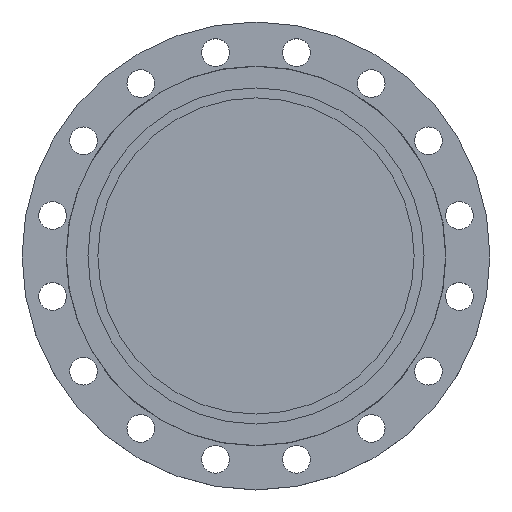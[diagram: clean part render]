
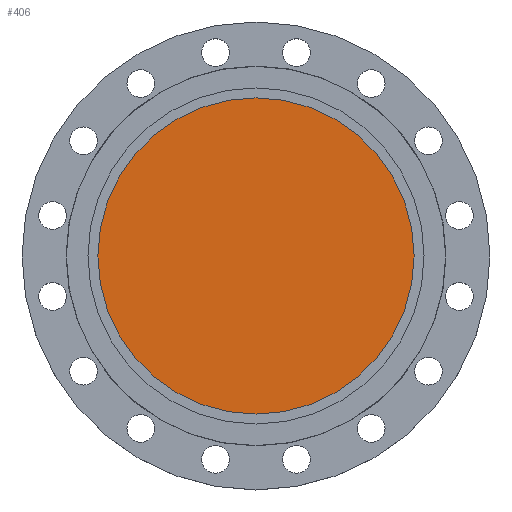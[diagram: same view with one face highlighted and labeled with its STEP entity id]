
A CAD part, top view. The second image highlights one B-rep face of the part: STEP entity #406.
In plain terms, the highlighted planar face has unit normal (0, 0, 1).
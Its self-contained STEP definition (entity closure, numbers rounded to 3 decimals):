
#20 = DIRECTION ( 'NONE',  ( 0., 0., -1. ) ) ;
#261 = AXIS2_PLACEMENT_3D ( 'NONE', #1387, #20, #798 ) ;
#262 = CARTESIAN_POINT ( 'NONE',  ( 223., 0., 0. ) ) ;
#313 = DIRECTION ( 'NONE',  ( 0., 0., -1. ) ) ;
#366 = DIRECTION ( 'NONE',  ( 1., 0., 0. ) ) ;
#368 = DIRECTION ( 'NONE',  ( 0., 0., 1. ) ) ;
#369 = CARTESIAN_POINT ( 'NONE',  ( 0., 0., 0. ) ) ;
#371 = PLANE ( 'NONE',  #671 ) ;
#374 = FACE_OUTER_BOUND ( 'NONE', #1257, .T. ) ;
#406 = ADVANCED_FACE ( 'NONE', ( #374 ), #371, .T. ) ;
#570 = VERTEX_POINT ( 'NONE', #262 ) ;
#671 = AXIS2_PLACEMENT_3D ( 'NONE', #369, #368, #366 ) ;
#798 = DIRECTION ( 'NONE',  ( -1., 0., 0. ) ) ;
#1008 = ORIENTED_EDGE ( 'NONE', *, *, #1496, .F. ) ;
#1010 = ORIENTED_EDGE ( 'NONE', *, *, #1225, .F. ) ;
#1051 = DIRECTION ( 'NONE',  ( -1., 0., 0. ) ) ;
#1128 = CIRCLE ( 'NONE', #261, 223. ) ;
#1225 = EDGE_CURVE ( 'NONE', #570, #1376, #1128, .T. ) ;
#1257 = EDGE_LOOP ( 'NONE', ( #1008, #1010 ) ) ;
#1376 = VERTEX_POINT ( 'NONE', #1400 ) ;
#1387 = CARTESIAN_POINT ( 'NONE',  ( 0., 0., 0. ) ) ;
#1400 = CARTESIAN_POINT ( 'NONE',  ( -223., 0., 0. ) ) ;
#1417 = AXIS2_PLACEMENT_3D ( 'NONE', #1466, #313, #1051 ) ;
#1423 = CIRCLE ( 'NONE', #1417, 223. ) ;
#1466 = CARTESIAN_POINT ( 'NONE',  ( 0., 0., 0. ) ) ;
#1496 = EDGE_CURVE ( 'NONE', #1376, #570, #1423, .T. ) ;
